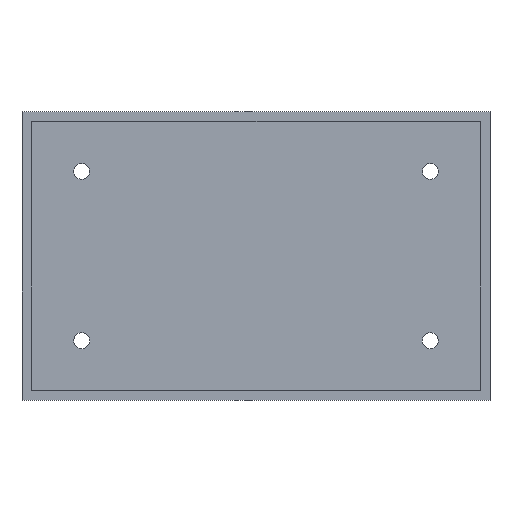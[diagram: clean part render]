
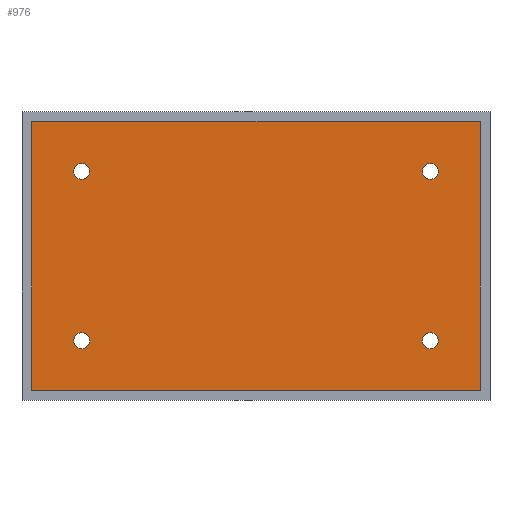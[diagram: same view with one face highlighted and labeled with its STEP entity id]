
A CAD part, top view. The second image highlights one B-rep face of the part: STEP entity #976.
In plain terms, the highlighted planar face has unit normal (0, 0, 1).
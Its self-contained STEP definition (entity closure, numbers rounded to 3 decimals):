
#282 = PLANE('',#283);
#283 = AXIS2_PLACEMENT_3D('',#284,#285,#286);
#284 = CARTESIAN_POINT('',(-45.,-27.,2.));
#285 = DIRECTION('',(0.,1.,0.));
#286 = DIRECTION('',(0.,0.,1.));
#308 = PLANE('',#309);
#309 = AXIS2_PLACEMENT_3D('',#310,#311,#312);
#310 = CARTESIAN_POINT('',(-45.,-27.,2.));
#311 = DIRECTION('',(1.,0.,0.));
#312 = DIRECTION('',(0.,0.,1.));
#334 = PLANE('',#335);
#335 = AXIS2_PLACEMENT_3D('',#336,#337,#338);
#336 = CARTESIAN_POINT('',(-45.,27.,2.));
#337 = DIRECTION('',(0.,1.,0.));
#338 = DIRECTION('',(0.,0.,1.));
#358 = PLANE('',#359);
#359 = AXIS2_PLACEMENT_3D('',#360,#361,#362);
#360 = CARTESIAN_POINT('',(45.,-27.,2.));
#361 = DIRECTION('',(1.,0.,0.));
#362 = DIRECTION('',(0.,0.,1.));
#464 = CYLINDRICAL_SURFACE('',#465,1.6);
#465 = AXIS2_PLACEMENT_3D('',#466,#467,#468);
#466 = CARTESIAN_POINT('',(-35.,-17.,-1.));
#467 = DIRECTION('',(0.,0.,1.));
#468 = DIRECTION('',(1.,0.,-0.));
#495 = CYLINDRICAL_SURFACE('',#496,1.6);
#496 = AXIS2_PLACEMENT_3D('',#497,#498,#499);
#497 = CARTESIAN_POINT('',(35.,-17.,-1.));
#498 = DIRECTION('',(0.,0.,1.));
#499 = DIRECTION('',(1.,0.,-0.));
#526 = CYLINDRICAL_SURFACE('',#527,1.6);
#527 = AXIS2_PLACEMENT_3D('',#528,#529,#530);
#528 = CARTESIAN_POINT('',(-35.,17.,-1.));
#529 = DIRECTION('',(0.,0.,1.));
#530 = DIRECTION('',(1.,0.,-0.));
#557 = CYLINDRICAL_SURFACE('',#558,1.6);
#558 = AXIS2_PLACEMENT_3D('',#559,#560,#561);
#559 = CARTESIAN_POINT('',(35.,17.,-1.));
#560 = DIRECTION('',(0.,0.,1.));
#561 = DIRECTION('',(1.,0.,-0.));
#580 = VERTEX_POINT('',#581);
#581 = CARTESIAN_POINT('',(45.,-27.,2.));
#602 = EDGE_CURVE('',#603,#580,#605,.T.);
#603 = VERTEX_POINT('',#604);
#604 = CARTESIAN_POINT('',(-45.,-27.,2.));
#605 = SURFACE_CURVE('',#606,(#610,#617),.PCURVE_S1.);
#606 = LINE('',#607,#608);
#607 = CARTESIAN_POINT('',(-45.,-27.,2.));
#608 = VECTOR('',#609,1.);
#609 = DIRECTION('',(1.,0.,0.));
#610 = PCURVE('',#282,#611);
#611 = DEFINITIONAL_REPRESENTATION('',(#612),#616);
#612 = LINE('',#613,#614);
#613 = CARTESIAN_POINT('',(0.,0.));
#614 = VECTOR('',#615,1.);
#615 = DIRECTION('',(0.,1.));
#616 = ( GEOMETRIC_REPRESENTATION_CONTEXT(2) 
PARAMETRIC_REPRESENTATION_CONTEXT() REPRESENTATION_CONTEXT('2D SPACE',''
  ) );
#617 = PCURVE('',#618,#623);
#618 = PLANE('',#619);
#619 = AXIS2_PLACEMENT_3D('',#620,#621,#622);
#620 = CARTESIAN_POINT('',(-45.,-27.,2.));
#621 = DIRECTION('',(0.,0.,1.));
#622 = DIRECTION('',(1.,0.,0.));
#623 = DEFINITIONAL_REPRESENTATION('',(#624),#628);
#624 = LINE('',#625,#626);
#625 = CARTESIAN_POINT('',(0.,0.));
#626 = VECTOR('',#627,1.);
#627 = DIRECTION('',(1.,0.));
#628 = ( GEOMETRIC_REPRESENTATION_CONTEXT(2) 
PARAMETRIC_REPRESENTATION_CONTEXT() REPRESENTATION_CONTEXT('2D SPACE',''
  ) );
#656 = EDGE_CURVE('',#580,#657,#659,.T.);
#657 = VERTEX_POINT('',#658);
#658 = CARTESIAN_POINT('',(45.,27.,2.));
#659 = SURFACE_CURVE('',#660,(#664,#671),.PCURVE_S1.);
#660 = LINE('',#661,#662);
#661 = CARTESIAN_POINT('',(45.,-27.,2.));
#662 = VECTOR('',#663,1.);
#663 = DIRECTION('',(0.,1.,0.));
#664 = PCURVE('',#358,#665);
#665 = DEFINITIONAL_REPRESENTATION('',(#666),#670);
#666 = LINE('',#667,#668);
#667 = CARTESIAN_POINT('',(0.,0.));
#668 = VECTOR('',#669,1.);
#669 = DIRECTION('',(0.,-1.));
#670 = ( GEOMETRIC_REPRESENTATION_CONTEXT(2) 
PARAMETRIC_REPRESENTATION_CONTEXT() REPRESENTATION_CONTEXT('2D SPACE',''
  ) );
#671 = PCURVE('',#618,#672);
#672 = DEFINITIONAL_REPRESENTATION('',(#673),#677);
#673 = LINE('',#674,#675);
#674 = CARTESIAN_POINT('',(90.,0.));
#675 = VECTOR('',#676,1.);
#676 = DIRECTION('',(0.,1.));
#677 = ( GEOMETRIC_REPRESENTATION_CONTEXT(2) 
PARAMETRIC_REPRESENTATION_CONTEXT() REPRESENTATION_CONTEXT('2D SPACE',''
  ) );
#705 = EDGE_CURVE('',#706,#657,#708,.T.);
#706 = VERTEX_POINT('',#707);
#707 = CARTESIAN_POINT('',(-45.,27.,2.));
#708 = SURFACE_CURVE('',#709,(#713,#720),.PCURVE_S1.);
#709 = LINE('',#710,#711);
#710 = CARTESIAN_POINT('',(-45.,27.,2.));
#711 = VECTOR('',#712,1.);
#712 = DIRECTION('',(1.,0.,0.));
#713 = PCURVE('',#334,#714);
#714 = DEFINITIONAL_REPRESENTATION('',(#715),#719);
#715 = LINE('',#716,#717);
#716 = CARTESIAN_POINT('',(0.,0.));
#717 = VECTOR('',#718,1.);
#718 = DIRECTION('',(0.,1.));
#719 = ( GEOMETRIC_REPRESENTATION_CONTEXT(2) 
PARAMETRIC_REPRESENTATION_CONTEXT() REPRESENTATION_CONTEXT('2D SPACE',''
  ) );
#720 = PCURVE('',#618,#721);
#721 = DEFINITIONAL_REPRESENTATION('',(#722),#726);
#722 = LINE('',#723,#724);
#723 = CARTESIAN_POINT('',(0.,54.));
#724 = VECTOR('',#725,1.);
#725 = DIRECTION('',(1.,0.));
#726 = ( GEOMETRIC_REPRESENTATION_CONTEXT(2) 
PARAMETRIC_REPRESENTATION_CONTEXT() REPRESENTATION_CONTEXT('2D SPACE',''
  ) );
#754 = EDGE_CURVE('',#603,#706,#755,.T.);
#755 = SURFACE_CURVE('',#756,(#760,#767),.PCURVE_S1.);
#756 = LINE('',#757,#758);
#757 = CARTESIAN_POINT('',(-45.,-27.,2.));
#758 = VECTOR('',#759,1.);
#759 = DIRECTION('',(0.,1.,0.));
#760 = PCURVE('',#308,#761);
#761 = DEFINITIONAL_REPRESENTATION('',(#762),#766);
#762 = LINE('',#763,#764);
#763 = CARTESIAN_POINT('',(0.,0.));
#764 = VECTOR('',#765,1.);
#765 = DIRECTION('',(0.,-1.));
#766 = ( GEOMETRIC_REPRESENTATION_CONTEXT(2) 
PARAMETRIC_REPRESENTATION_CONTEXT() REPRESENTATION_CONTEXT('2D SPACE',''
  ) );
#767 = PCURVE('',#618,#768);
#768 = DEFINITIONAL_REPRESENTATION('',(#769),#773);
#769 = LINE('',#770,#771);
#770 = CARTESIAN_POINT('',(0.,0.));
#771 = VECTOR('',#772,1.);
#772 = DIRECTION('',(0.,1.));
#773 = ( GEOMETRIC_REPRESENTATION_CONTEXT(2) 
PARAMETRIC_REPRESENTATION_CONTEXT() REPRESENTATION_CONTEXT('2D SPACE',''
  ) );
#780 = EDGE_CURVE('',#781,#781,#783,.T.);
#781 = VERTEX_POINT('',#782);
#782 = CARTESIAN_POINT('',(-33.4,-17.,2.));
#783 = SURFACE_CURVE('',#784,(#789,#796),.PCURVE_S1.);
#784 = CIRCLE('',#785,1.6);
#785 = AXIS2_PLACEMENT_3D('',#786,#787,#788);
#786 = CARTESIAN_POINT('',(-35.,-17.,2.));
#787 = DIRECTION('',(0.,0.,1.));
#788 = DIRECTION('',(1.,0.,-0.));
#789 = PCURVE('',#464,#790);
#790 = DEFINITIONAL_REPRESENTATION('',(#791),#795);
#791 = LINE('',#792,#793);
#792 = CARTESIAN_POINT('',(0.,3.));
#793 = VECTOR('',#794,1.);
#794 = DIRECTION('',(1.,0.));
#795 = ( GEOMETRIC_REPRESENTATION_CONTEXT(2) 
PARAMETRIC_REPRESENTATION_CONTEXT() REPRESENTATION_CONTEXT('2D SPACE',''
  ) );
#796 = PCURVE('',#618,#797);
#797 = DEFINITIONAL_REPRESENTATION('',(#798),#802);
#798 = CIRCLE('',#799,1.6);
#799 = AXIS2_PLACEMENT_2D('',#800,#801);
#800 = CARTESIAN_POINT('',(10.,10.));
#801 = DIRECTION('',(1.,0.));
#802 = ( GEOMETRIC_REPRESENTATION_CONTEXT(2) 
PARAMETRIC_REPRESENTATION_CONTEXT() REPRESENTATION_CONTEXT('2D SPACE',''
  ) );
#830 = EDGE_CURVE('',#831,#831,#833,.T.);
#831 = VERTEX_POINT('',#832);
#832 = CARTESIAN_POINT('',(36.6,-17.,2.));
#833 = SURFACE_CURVE('',#834,(#839,#846),.PCURVE_S1.);
#834 = CIRCLE('',#835,1.6);
#835 = AXIS2_PLACEMENT_3D('',#836,#837,#838);
#836 = CARTESIAN_POINT('',(35.,-17.,2.));
#837 = DIRECTION('',(0.,0.,1.));
#838 = DIRECTION('',(1.,0.,-0.));
#839 = PCURVE('',#495,#840);
#840 = DEFINITIONAL_REPRESENTATION('',(#841),#845);
#841 = LINE('',#842,#843);
#842 = CARTESIAN_POINT('',(0.,3.));
#843 = VECTOR('',#844,1.);
#844 = DIRECTION('',(1.,0.));
#845 = ( GEOMETRIC_REPRESENTATION_CONTEXT(2) 
PARAMETRIC_REPRESENTATION_CONTEXT() REPRESENTATION_CONTEXT('2D SPACE',''
  ) );
#846 = PCURVE('',#618,#847);
#847 = DEFINITIONAL_REPRESENTATION('',(#848),#852);
#848 = CIRCLE('',#849,1.6);
#849 = AXIS2_PLACEMENT_2D('',#850,#851);
#850 = CARTESIAN_POINT('',(80.,10.));
#851 = DIRECTION('',(1.,0.));
#852 = ( GEOMETRIC_REPRESENTATION_CONTEXT(2) 
PARAMETRIC_REPRESENTATION_CONTEXT() REPRESENTATION_CONTEXT('2D SPACE',''
  ) );
#880 = EDGE_CURVE('',#881,#881,#883,.T.);
#881 = VERTEX_POINT('',#882);
#882 = CARTESIAN_POINT('',(-33.4,17.,2.));
#883 = SURFACE_CURVE('',#884,(#889,#896),.PCURVE_S1.);
#884 = CIRCLE('',#885,1.6);
#885 = AXIS2_PLACEMENT_3D('',#886,#887,#888);
#886 = CARTESIAN_POINT('',(-35.,17.,2.));
#887 = DIRECTION('',(0.,0.,1.));
#888 = DIRECTION('',(1.,0.,-0.));
#889 = PCURVE('',#526,#890);
#890 = DEFINITIONAL_REPRESENTATION('',(#891),#895);
#891 = LINE('',#892,#893);
#892 = CARTESIAN_POINT('',(0.,3.));
#893 = VECTOR('',#894,1.);
#894 = DIRECTION('',(1.,0.));
#895 = ( GEOMETRIC_REPRESENTATION_CONTEXT(2) 
PARAMETRIC_REPRESENTATION_CONTEXT() REPRESENTATION_CONTEXT('2D SPACE',''
  ) );
#896 = PCURVE('',#618,#897);
#897 = DEFINITIONAL_REPRESENTATION('',(#898),#902);
#898 = CIRCLE('',#899,1.6);
#899 = AXIS2_PLACEMENT_2D('',#900,#901);
#900 = CARTESIAN_POINT('',(10.,44.));
#901 = DIRECTION('',(1.,0.));
#902 = ( GEOMETRIC_REPRESENTATION_CONTEXT(2) 
PARAMETRIC_REPRESENTATION_CONTEXT() REPRESENTATION_CONTEXT('2D SPACE',''
  ) );
#930 = EDGE_CURVE('',#931,#931,#933,.T.);
#931 = VERTEX_POINT('',#932);
#932 = CARTESIAN_POINT('',(36.6,17.,2.));
#933 = SURFACE_CURVE('',#934,(#939,#946),.PCURVE_S1.);
#934 = CIRCLE('',#935,1.6);
#935 = AXIS2_PLACEMENT_3D('',#936,#937,#938);
#936 = CARTESIAN_POINT('',(35.,17.,2.));
#937 = DIRECTION('',(0.,0.,1.));
#938 = DIRECTION('',(1.,0.,-0.));
#939 = PCURVE('',#557,#940);
#940 = DEFINITIONAL_REPRESENTATION('',(#941),#945);
#941 = LINE('',#942,#943);
#942 = CARTESIAN_POINT('',(0.,3.));
#943 = VECTOR('',#944,1.);
#944 = DIRECTION('',(1.,0.));
#945 = ( GEOMETRIC_REPRESENTATION_CONTEXT(2) 
PARAMETRIC_REPRESENTATION_CONTEXT() REPRESENTATION_CONTEXT('2D SPACE',''
  ) );
#946 = PCURVE('',#618,#947);
#947 = DEFINITIONAL_REPRESENTATION('',(#948),#952);
#948 = CIRCLE('',#949,1.6);
#949 = AXIS2_PLACEMENT_2D('',#950,#951);
#950 = CARTESIAN_POINT('',(80.,44.));
#951 = DIRECTION('',(1.,0.));
#952 = ( GEOMETRIC_REPRESENTATION_CONTEXT(2) 
PARAMETRIC_REPRESENTATION_CONTEXT() REPRESENTATION_CONTEXT('2D SPACE',''
  ) );
#976 = ADVANCED_FACE('',(#977,#983,#986,#989,#992),#618,.T.);
#977 = FACE_BOUND('',#978,.T.);
#978 = EDGE_LOOP('',(#979,#980,#981,#982));
#979 = ORIENTED_EDGE('',*,*,#754,.F.);
#980 = ORIENTED_EDGE('',*,*,#602,.T.);
#981 = ORIENTED_EDGE('',*,*,#656,.T.);
#982 = ORIENTED_EDGE('',*,*,#705,.F.);
#983 = FACE_BOUND('',#984,.T.);
#984 = EDGE_LOOP('',(#985));
#985 = ORIENTED_EDGE('',*,*,#780,.F.);
#986 = FACE_BOUND('',#987,.T.);
#987 = EDGE_LOOP('',(#988));
#988 = ORIENTED_EDGE('',*,*,#830,.F.);
#989 = FACE_BOUND('',#990,.T.);
#990 = EDGE_LOOP('',(#991));
#991 = ORIENTED_EDGE('',*,*,#880,.F.);
#992 = FACE_BOUND('',#993,.T.);
#993 = EDGE_LOOP('',(#994));
#994 = ORIENTED_EDGE('',*,*,#930,.F.);
